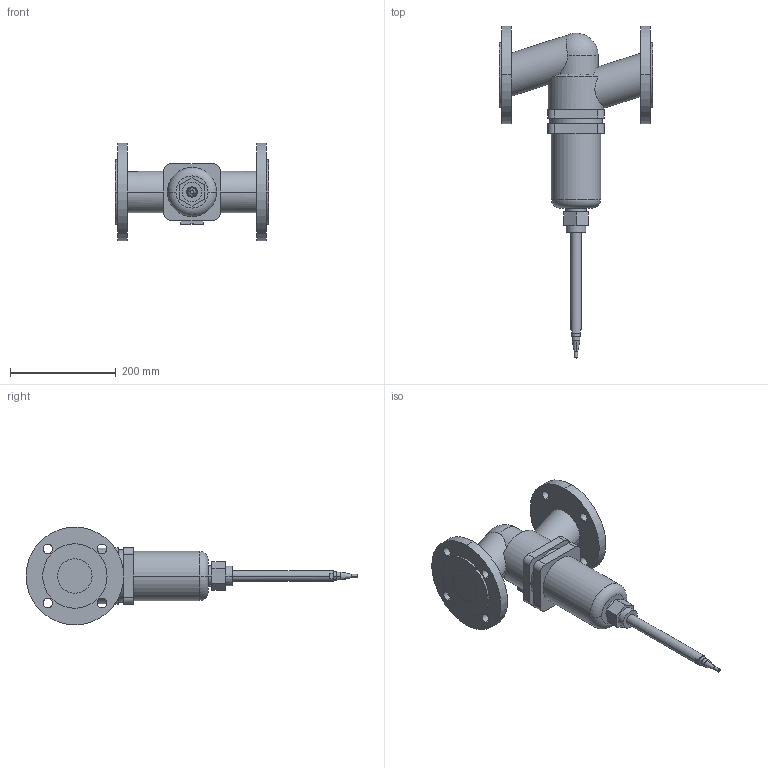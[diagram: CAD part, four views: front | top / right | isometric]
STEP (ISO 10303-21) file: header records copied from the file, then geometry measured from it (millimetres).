
FILE_DESCRIPTION(('CoCreate Modeling STEP Export'),'2;1');
FILE_NAME('c000004772.stp','2011-09-21T 8:39:06',(''),(''),'CoCreate Modeling STEP processor for AP214 (Solid Model)','CoCreate Modeling 17.0 01-Apr-2010 (C) Parametric Technology GmbH','');
FILE_SCHEMA(('AUTOMOTIVE_DESIGN { 1 0 10303 214 1 1 1 1 }'));
Length unit declared in the file: millimetre
Products named in the file (1): 1
Bounding box: 290 x 628.44 x 185 mm (x, y, z)
Volume: 4339110.7 mm3; surface area: 303678.7 mm2
Topology: 1 solids, 1 shells, 120 faces, 296 edges, 195 vertices
Faces by surface type: cylinder 60, plane 52, cone 4, torus 2, sphere 2
Entity records: 4596 total; most frequent: CARTESIAN_POINT 958, ORIENTED_EDGE 588, DIRECTION 493, EDGE_CURVE 294, VERTEX_POINT 195, AXIS2_PLACEMENT_3D 174, EDGE_LOOP 155, VECTOR 145
